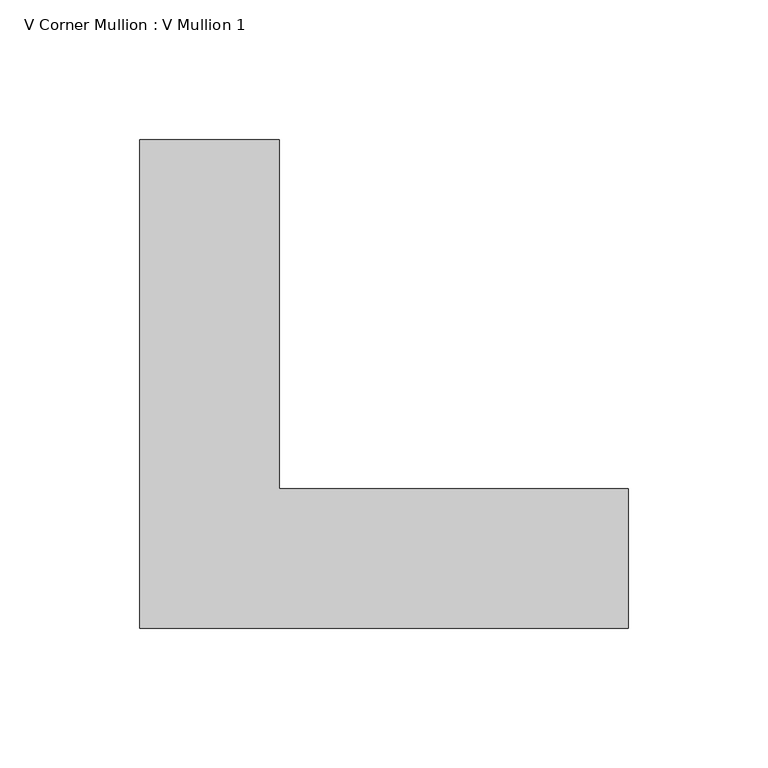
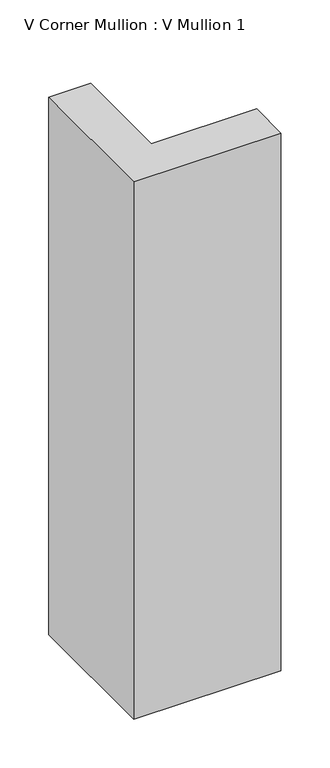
"""IFC4 building model written with IfcOpenShell, lengths in millimetres: member geometry, V Corner Mullion : V Mullion 1."""

from ifc_helpers import new_model, si_unit, frame, origin, place, context, project, spatial, polyline, outline, extrude, source, transform, mapped, element, save


def v_corner_mullion_v_mullion_1_4652a198(model_context):
    return source(origin(), model_context, "Body", "SweptSolid", [
        extrude(outline(polyline([(75.0, -100.0), (-100.0, -100.0), (-100.0, 75.0), (-50.0, 75.0), (-50.0, -50.0), (75.0, -50.0), (75.0, -100.0)])), frame((0.0, 0.0, -675.0), z_axis=(0.0, 0.0, 1.0), x_axis=(1.0, 0.0, 0.0)), (0.0, 0.0, 1.0), 675.0),
    ])


if __name__ == "__main__":
    model = new_model("IFC4")
    model_context = context("Model", 3, world=origin())
    ifc_project = project(units=[si_unit("LENGTHUNIT", "METRE", prefix="MILLI")], contexts=[model_context])
    site = spatial("IfcSite", under=ifc_project)
    building = spatial("IfcBuilding", under=site)
    placement = place(None, origin())
    v_corner_mullion_v_mullion_1_shape = v_corner_mullion_v_mullion_1_4652a198(model_context)
    element("IfcMember", 1, ObjectType="V Corner Mullion : V Mullion 1", at=placement, inside=building, context=model_context, shape_type="MappedRepresentation", body=[
        mapped(v_corner_mullion_v_mullion_1_shape, transform((0.0, 0.0, 0.0), x_axis=(1.0, 0.0, 0.0), y_axis=(0.0, 1.0, 0.0), z_axis=(0.0, 0.0, 1.0))),
    ])
    save(model, "model.ifc")
